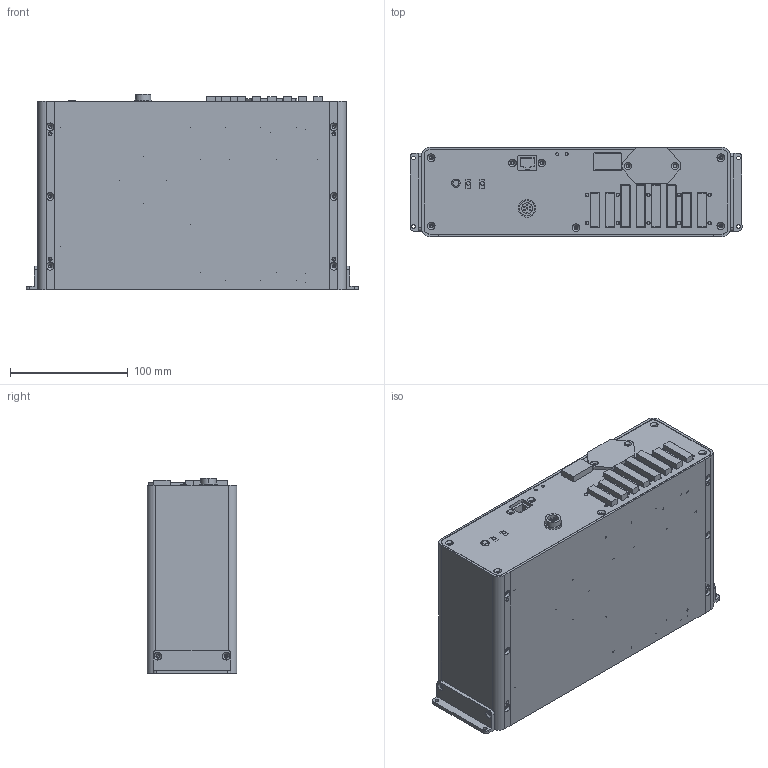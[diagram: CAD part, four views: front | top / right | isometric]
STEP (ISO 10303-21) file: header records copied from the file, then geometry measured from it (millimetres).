
FILE_DESCRIPTION (( 'STEP AP214' ), '1' );
FILE_NAME ('850 DC諷秶碟蚾饜极.STEP', '2024-01-24T04:11:17', ( '' ), ( '' ), 'SwSTEP 2.0', 'SolidWorks 2016', '' );
FILE_SCHEMA (( 'AUTOMOTIVE_DESIGN' ));
Length unit declared in the file: millimetre
Products named in the file (30): DC-厙諳; DC1300R5鍼踢褲; M3-22-5等芛肣翐; DC1300綴嘐隅輸; RXLG-80W10RJ; DC1300境嫉; X86翋啣; eatpower; M3x5-3肣翐; xarm_dc1300_ioconnecter_v0.0.1-0407; DC1300DC-DC嘐隅璃; pro_dc_pconnecter_forout_v001; DC8500-01 MM0504 850DC前端盖垫板; DC1300-08 MM0505 萇埭啣嘐隅璃-A11; Pro_DC_PowerController_V001; xarm_dc1300_36vto12v_v0.0.1(1); DC1300ヶ傷裔; 珨极諉芛; M3-43邧籵肣翐; DC1300嘐隅沭; DC1300散热块; DC1300嘐隅輸; DC1300菁啣; DC1300綴傷裔; DC-DC; 羲儂偌聽; Pro_DC_Pconnecter_v02; 850 DC諷秶碟蚾饜极; GX12; DC1300蛌諉啣
Assembly tree (75 placements, depth 2):
  850 DC諷秶碟蚾饜极
    DC1300菁啣
    M3x5-3肣翐  x32
    X86翋啣
    M3-22-5等芛肣翐  x4
    DC1300-08 MM0505 萇埭啣嘐隅璃-A11
    M3-43邧籵肣翐  x5
    DC1300蛌諉啣
    xarm_dc1300_36vto12v_v0.0.1(1)
    eatpower
    xarm_dc1300_ioconnecter_v0.0.1-0407
    GX12
    DC-厙諳
    羲儂偌聽
    DC1300綴傷裔
    DC1300綴嘐隅輸
    DC1300ヶ傷裔
    DC1300R5鍼踢褲
    DC1300嘐隅輸  x3
    DC1300嘐隅沭  x4
    DC1300DC-DC嘐隅璃  x2
    DC-DC
    DC1300散热块
    DC1300境嫉  x2
    RXLG-80W10RJ  x2
    珨极諉芛
    pro_dc_pconnecter_forout_v001
    Pro_DC_Pconnecter_v02
    Pro_DC_PowerController_V001
    DC8500-01 MM0504 850DC前端盖垫板
Bounding box: 282 x 76 x 166.2 mm (x, y, z)
Volume: 1074661.8 mm3; surface area: 658231.1 mm2
Topology: 810 solids, 810 shells, 6843 faces, 14915 edges, 9705 vertices
Faces by surface type: plane 5350, cylinder 1225, cone 266, bspline 2
Entity records: 170595 total; most frequent: CARTESIAN_POINT 27628, DIRECTION 27161, ORIENTED_EDGE 25842, EDGE_CURVE 12921, LINE 10781, VECTOR 10781, VERTEX_POINT 8537, AXIS2_PLACEMENT_3D 8190
